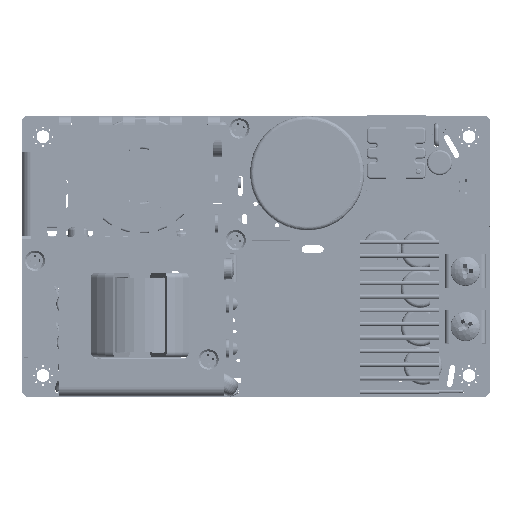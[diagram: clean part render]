
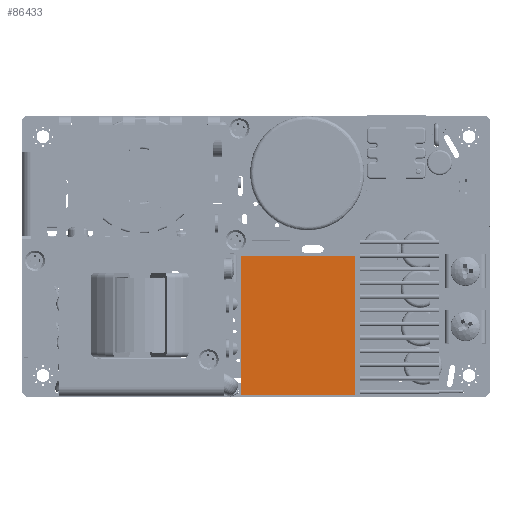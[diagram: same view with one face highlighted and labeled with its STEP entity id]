
A CAD part, top view. The second image highlights one B-rep face of the part: STEP entity #86433.
In plain terms, the highlighted planar face has unit normal (0, 0, 1).
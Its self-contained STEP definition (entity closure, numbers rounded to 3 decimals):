
#4431 = CARTESIAN_POINT ( 'NONE',  ( -0.064, -5.525, 144.353 ) ) ;
#5507 = LINE ( 'NONE', #12061, #183111 ) ;
#12061 = CARTESIAN_POINT ( 'NONE',  ( -0.064, -5.525, 144.353 ) ) ;
#21369 = LINE ( 'NONE', #63120, #29420 ) ;
#23579 = EDGE_CURVE ( 'NONE', #111501, #86713, #21369, .T. ) ;
#29420 = VECTOR ( 'NONE', #45820, 1000. ) ;
#31301 = LINE ( 'NONE', #4431, #173828 ) ;
#33775 = ORIENTED_EDGE ( 'NONE', *, *, #45858, .T. ) ;
#35483 = CARTESIAN_POINT ( 'NONE',  ( 30.936, -5.525, 144.353 ) ) ;
#40619 = LINE ( 'NONE', #48006, #166933 ) ;
#41139 = CARTESIAN_POINT ( 'NONE',  ( 30.936, -43.225, 144.353 ) ) ;
#43175 = EDGE_CURVE ( 'NONE', #44669, #96737, #31301, .T. ) ;
#44669 = VERTEX_POINT ( 'NONE', #35483 ) ;
#45820 = DIRECTION ( 'NONE',  ( 1., 0., 0. ) ) ;
#45858 = EDGE_CURVE ( 'NONE', #86713, #44669, #40619, .T. ) ;
#48006 = CARTESIAN_POINT ( 'NONE',  ( 30.936, -5.525, 144.353 ) ) ;
#53235 = PLANE ( 'NONE',  #177626 ) ;
#58630 = EDGE_CURVE ( 'NONE', #96737, #111501, #5507, .T. ) ;
#63120 = CARTESIAN_POINT ( 'NONE',  ( -0.064, -43.225, 144.353 ) ) ;
#64173 = ORIENTED_EDGE ( 'NONE', *, *, #23579, .T. ) ;
#67544 = DIRECTION ( 'NONE',  ( 0., 1., 0. ) ) ;
#68308 = DIRECTION ( 'NONE',  ( 0., 0., 1. ) ) ;
#86433 = ADVANCED_FACE ( 'NONE', ( #201390 ), #53235, .T. ) ;
#86713 = VERTEX_POINT ( 'NONE', #41139 ) ;
#96737 = VERTEX_POINT ( 'NONE', #137361 ) ;
#102890 = DIRECTION ( 'NONE',  ( 1., 0., 0. ) ) ;
#111501 = VERTEX_POINT ( 'NONE', #197649 ) ;
#124761 = DIRECTION ( 'NONE',  ( -1., 0., 0. ) ) ;
#137361 = CARTESIAN_POINT ( 'NONE',  ( -0.064, -5.525, 144.353 ) ) ;
#166255 = DIRECTION ( 'NONE',  ( 0., -1., 0. ) ) ;
#166933 = VECTOR ( 'NONE', #67544, 1000. ) ;
#168317 = ORIENTED_EDGE ( 'NONE', *, *, #43175, .T. ) ;
#171247 = CARTESIAN_POINT ( 'NONE',  ( 3.185, -17.079, 144.353 ) ) ;
#173828 = VECTOR ( 'NONE', #124761, 1000. ) ;
#177626 = AXIS2_PLACEMENT_3D ( 'NONE', #171247, #68308, #102890 ) ;
#183111 = VECTOR ( 'NONE', #166255, 1000. ) ;
#194024 = EDGE_LOOP ( 'NONE', ( #208007, #64173, #33775, #168317 ) ) ;
#197649 = CARTESIAN_POINT ( 'NONE',  ( -0.064, -43.225, 144.353 ) ) ;
#201390 = FACE_OUTER_BOUND ( 'NONE', #194024, .T. ) ;
#208007 = ORIENTED_EDGE ( 'NONE', *, *, #58630, .T. ) ;
